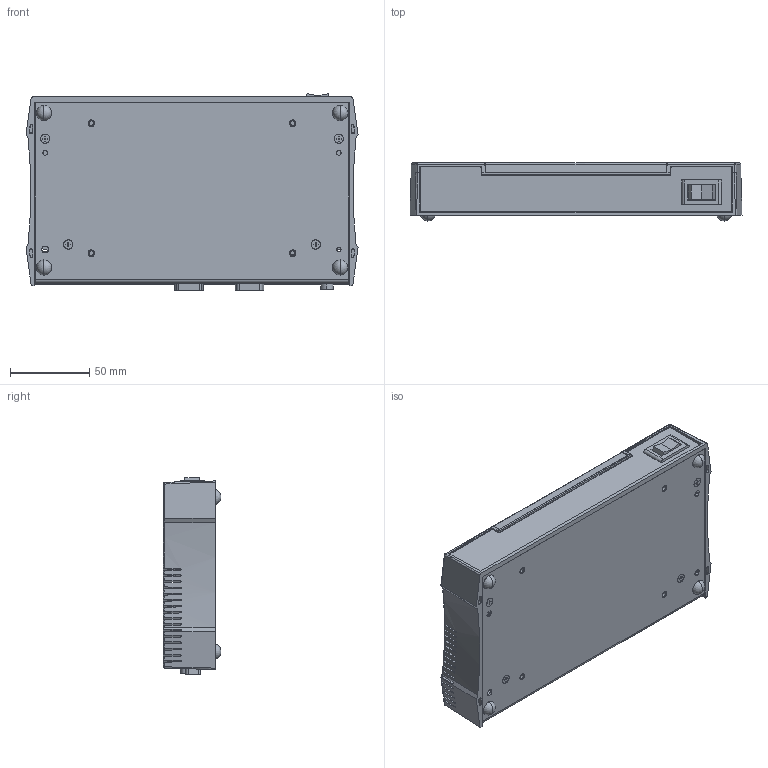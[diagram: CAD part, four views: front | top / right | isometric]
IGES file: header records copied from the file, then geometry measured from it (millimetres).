
Start section:  PTC IGES file: cu_enet_2x_serial.igs
Global section: file name: cu_enet_2x_serial.igs; native system: Pro/ENGINEER by Parametric Technology Corporation; preprocessor: 2006300; author: chrisj; organization: Unknown; date: 20070716.150229; units: inch
Bounding box: 209.56 x 36.58 x 124.3 mm (x, y, z)
Surface area: 158474.4 mm2 (no closed solid volume)
Topology: 0 solids, 0 shells, 1796 faces, 10294 edges, 10286 vertices
Faces by surface type: bspline 1250, revolution 546
